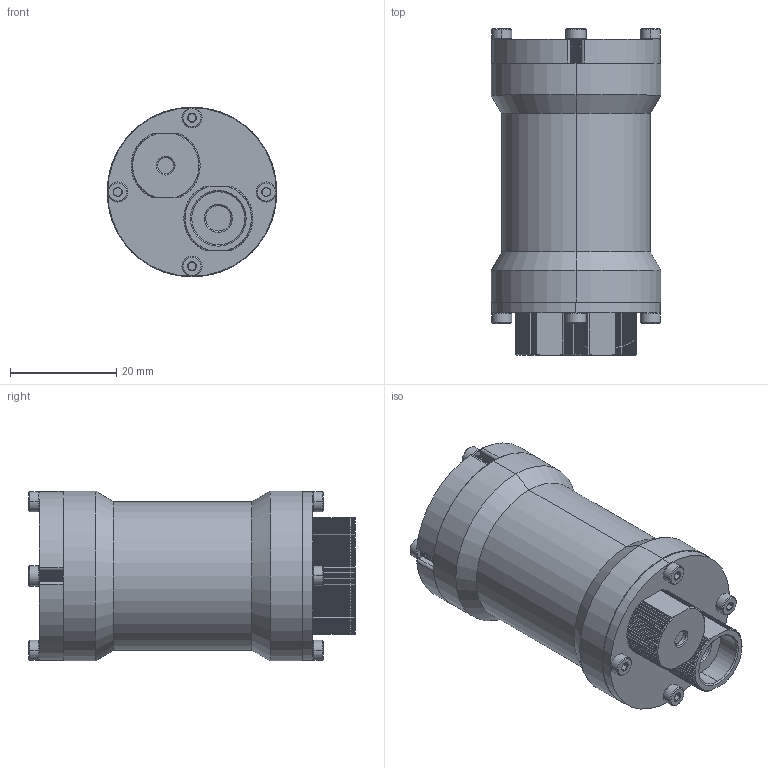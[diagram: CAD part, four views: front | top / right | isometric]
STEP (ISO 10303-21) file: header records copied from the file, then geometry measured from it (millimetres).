
FILE_DESCRIPTION (( 'STEP AP203' ), '1' );
FILE_NAME ('Assem-LUMEN-LIGHT-R1.STEP', '2016-02-17T20:30:18', ( '' ), ( '' ), 'SwSTEP 2.0', 'SolidWorks 2014', '' );
FILE_SCHEMA (( 'CONFIG_CONTROL_DESIGN' ));
Length unit declared in the file: inch
Products named in the file (1): Assem-LUMEN-LIGHT-R1
Bounding box: 32 x 61.5 x 32 mm (x, y, z)
Surface area: 9632.9 mm2 (no closed solid volume)
Topology: 0 solids, 13 shells, 701 faces, 1966 edges, 1286 vertices
Faces by surface type: cylinder 302, plane 289, cone 102, bspline 8
Entity records: 30431 total; most frequent: CARTESIAN_POINT 13882, ORIENTED_EDGE 3472, DIRECTION 3182, EDGE_CURVE 1966, VERTEX_POINT 1286, AXIS2_PLACEMENT_3D 1138, VECTOR 906, LINE 906
